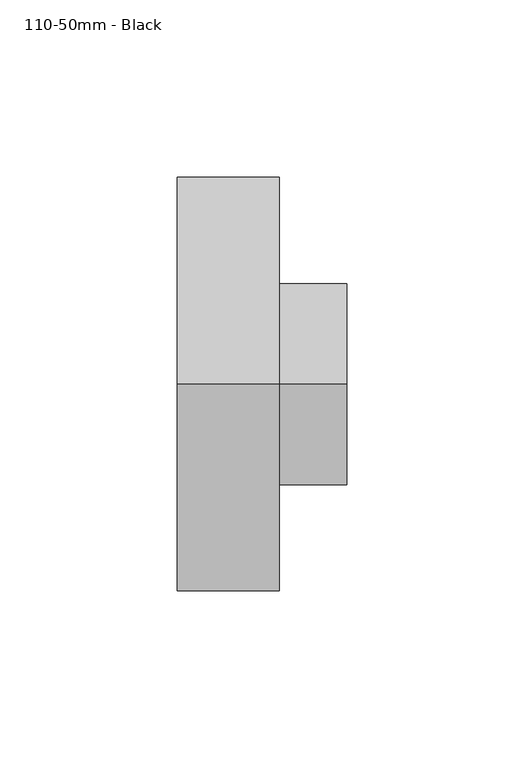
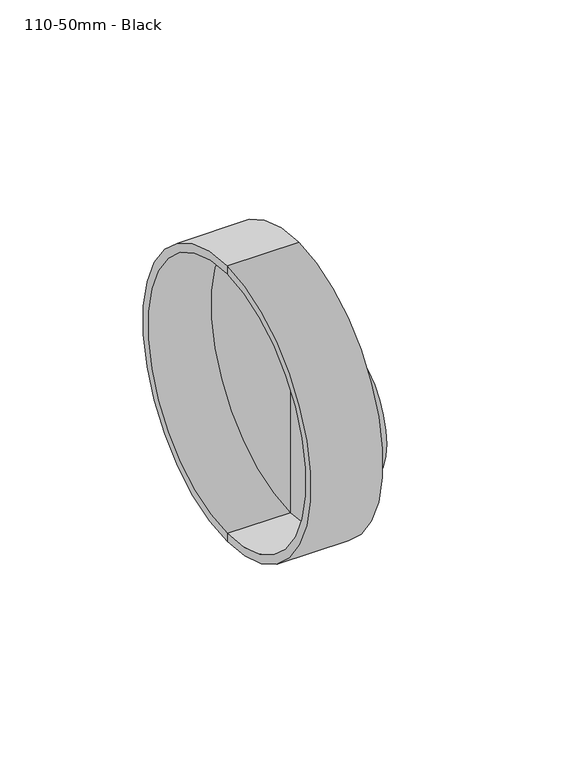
"""IFC4 building model written with IfcOpenShell, lengths in millimetres: pipe fitting geometry, MarleyPlumbingAndDrainage_PipeFitting_EccentricReducer_SRM402 : 110-50mm - Black."""

from ifc_helpers import new_model, si_unit, frame, origin, place, context, project, spatial, polyline, circle_curve, source, transform, mapped, element, save
from ifc_brep_helpers import plane_surface, cylinder_surface, revolved_surface, advanced_brep


def pipe_fitting_110_50mm_black_856728b7(model_context):
    return source(origin(), model_context, "Body", "AdvancedBrep", [
        advanced_brep(
        [(-27.1, 0.0, -58.6672427), (-27.1, 0.0, 58.6672427), (1.7, 0.0, 58.6672427), (1.7, 0.0, -58.6672427), (-27.1, 0.0, -55.2672427), (-27.1, 0.0, 55.2672427), (-1.7, 0.0, -55.2672427), (-1.7, 0.0, 55.2672427), (-1.7, 0.0, 0.0), (1.7, 0.0, 11.725), (1.7, 0.0, -45.125), (1.7, 0.0, 8.875), (1.7, 0.0, 0.0), (1.7, 0.0, -42.275), (20.7, 0.0, 11.725), (20.7, 0.0, -45.125), (20.7, 0.0, -42.275), (20.7, 0.0, 8.875)],
        [
            (0, 1, circle_curve(frame((-27.1, 0.0, 0.0), z_axis=(1.0, 0.0, 0.0), x_axis=(0.0, 0.0, 1.0)), 58.6672427)),
            (1, 2),
            (2, 3, circle_curve(frame((1.7, 0.0, 0.0), z_axis=(-1.0, 0.0, 0.0), x_axis=(0.0, 0.0, 1.0)), 58.6672427)),
            (3, 0),
            (1, 0, circle_curve(frame((-27.1, 0.0, 0.0), z_axis=(1.0, 0.0, 0.0), x_axis=(0.0, 0.0, 1.0)), 58.6672427)),
            (3, 2, circle_curve(frame((1.7, 0.0, 0.0), z_axis=(-1.0, 0.0, 0.0), x_axis=(0.0, 0.0, 1.0)), 58.6672427)),
            (0, 4),
            (4, 5, circle_curve(frame((-27.1, 0.0, 0.0), z_axis=(1.0, 0.0, 0.0), x_axis=(0.0, 0.0, 1.0)), 55.2672427)),
            (5, 1),
            (5, 4, circle_curve(frame((-27.1, 0.0, 0.0), z_axis=(1.0, 0.0, 0.0), x_axis=(0.0, 0.0, 1.0)), 55.2672427)),
            (4, 6),
            (6, 7, circle_curve(frame((-1.7, 0.0, 0.0), z_axis=(1.0, 0.0, 0.0), x_axis=(0.0, 0.0, 1.0)), 55.2672427)),
            (7, 5),
            (7, 6, circle_curve(frame((-1.7, 0.0, 0.0), z_axis=(1.0, 0.0, 0.0), x_axis=(0.0, 0.0, 1.0)), 55.2672427)),
            (6, 8),
            (8, 7),
            (2, 9),
            (9, 10, circle_curve(frame((1.7, 0.0, -16.7), z_axis=(-1.0, 0.0, 0.0), x_axis=(0.0, 0.0, 1.0)), 28.425)),
            (10, 3),
            (11, 12),
            (12, 13),
            (13, 11, circle_curve(frame((1.7, 0.0, -16.7), z_axis=(1.0, 0.0, 0.0), x_axis=(0.0, 0.0, 1.0)), 25.575)),
            (10, 9, circle_curve(frame((1.7, 0.0, -16.7), z_axis=(-1.0, 0.0, 0.0), x_axis=(0.0, 0.0, 1.0)), 28.425)),
            (11, 13, circle_curve(frame((1.7, 0.0, -16.7), z_axis=(1.0, 0.0, 0.0), x_axis=(0.0, 0.0, 1.0)), 25.575)),
            (9, 14),
            (14, 15, circle_curve(frame((20.7, 0.0, -16.7), z_axis=(-1.0, 0.0, 0.0), x_axis=(0.0, 0.0, 1.0)), 28.425)),
            (15, 10),
            (15, 14, circle_curve(frame((20.7, 0.0, -16.7), z_axis=(-1.0, 0.0, 0.0), x_axis=(0.0, 0.0, 1.0)), 28.425)),
            (16, 17, circle_curve(frame((20.7, 0.0, -16.7), z_axis=(1.0, 0.0, 0.0), x_axis=(0.0, 0.0, 1.0)), 25.575)),
            (17, 11),
            (13, 16),
            (17, 16, circle_curve(frame((20.7, 0.0, -16.7), z_axis=(1.0, 0.0, 0.0), x_axis=(0.0, 0.0, 1.0)), 25.575)),
            (14, 17),
            (16, 15),
        ],
        [
            cylinder_surface(frame((-63.8645768, 0.0, 0.0), z_axis=(-1.0, 0.0, 0.0), x_axis=(0.0, 0.0, 1.0)), 58.6672427),
            plane_surface(frame((-27.1, 0.0, 0.0), z_axis=(-1.0, 0.0, 0.0), x_axis=(0.0, 0.0, 1.0))),
            revolved_surface(polyline([(-27.1, 0.0, 55.2672427), (-1.7000000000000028, 0.0, 55.2672427)]), (-63.8645768, 0.0, 0.0), (-1.0, 0.0, 0.0)),
            plane_surface(frame((-1.7, 0.0, 0.0), z_axis=(-1.0, 0.0, 0.0), x_axis=(0.0, 0.0, 1.0))),
            plane_surface(frame((1.7, 0.0, 0.0), z_axis=(1.0, 0.0, 0.0), x_axis=(0.0, 0.0, 1.0))),
            cylinder_surface(frame((-9.3, 0.0, -16.7), z_axis=(-1.0, 0.0, 0.0), x_axis=(0.0, 0.0, 1.0)), 28.425),
            revolved_surface(polyline([(1.6999999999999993, 0.0, 8.875), (20.7, 0.0, 8.875)]), (-9.3, 0.0, -16.7), (-1.0, 0.0, 0.0)),
            plane_surface(frame((20.7, 0.0, -16.7), z_axis=(1.0, 0.0, 0.0), x_axis=(0.0, 0.0, 1.0))),
        ],
        [
            (0, [[1, 2, 3, 4]]),
            (0, [[-2, 5, -4, 6]]),
            (1, [[-1, 7, 8, 9]]),
            (1, [[-5, -9, 10, -7]]),
            (2, [[-8, 11, 12, 13]]),
            (2, [[-10, -13, 14, -11]]),
            (3, [[-12, 15, 16]]),
            (3, [[-14, -16, -15]]),
            (4, [[-3, 17, 18, 19]]),
            (4, [[20, 21, 22]]),
            (4, [[-6, -19, 23, -17]]),
            (4, [[-20, 24, -21]]),
            (5, [[25, 26, 27, -18]]),
            (5, [[-25, -23, -27, 28]]),
            (6, [[29, 30, -22, 31]]),
            (6, [[-30, 32, -31, -24]]),
            (7, [[-26, 33, -29, 34]]),
            (7, [[-28, -34, -32, -33]]),
        ],
    ),
    ])


if __name__ == "__main__":
    model = new_model("IFC4")
    model_context = context("Model", 3, world=origin())
    ifc_project = project(units=[si_unit("LENGTHUNIT", "METRE", prefix="MILLI")], contexts=[model_context])
    site = spatial("IfcSite", under=ifc_project)
    building = spatial("IfcBuilding", under=site)
    placement = place(None, origin())
    pipe_fitting_110_50mm_black_shape = pipe_fitting_110_50mm_black_856728b7(model_context)
    element("IfcPipeFitting", 1, ObjectType="MarleyPlumbingAndDrainage_PipeFitting_EccentricReducer_SRM402 : 110-50mm - Black", at=placement, inside=building, context=model_context, shape_type="MappedRepresentation", body=[
        mapped(pipe_fitting_110_50mm_black_shape, transform((0.0, 0.0, 0.0), x_axis=(1.0, 0.0, 0.0), y_axis=(0.0, 1.0, 0.0), z_axis=(0.0, 0.0, 1.0))),
    ])
    save(model, "model.ifc")
